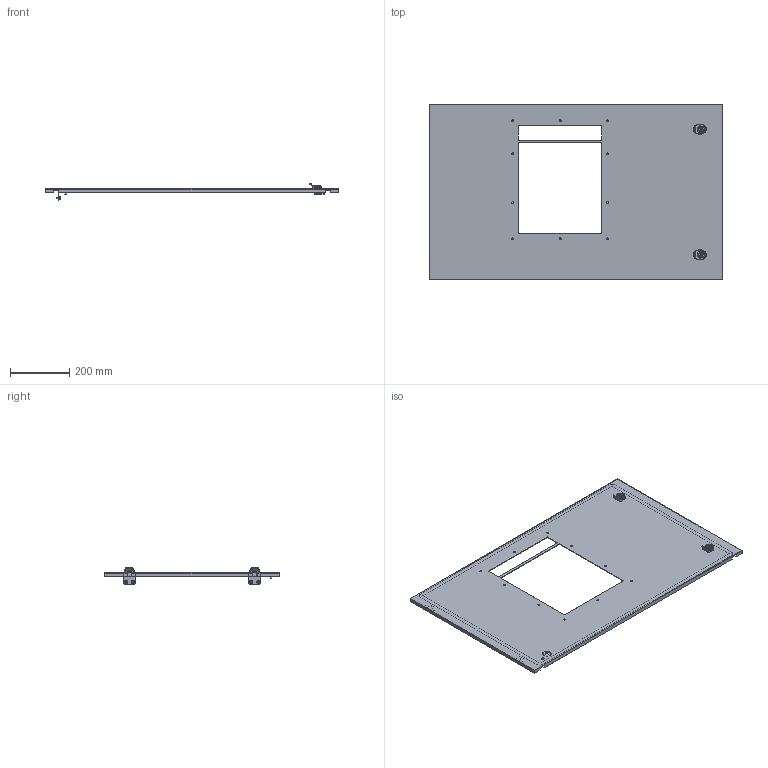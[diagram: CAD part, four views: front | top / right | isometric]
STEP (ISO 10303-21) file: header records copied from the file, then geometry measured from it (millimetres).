
FILE_DESCRIPTION (( 'STEP AP214' ), '1' );
FILE_NAME ('FO-00-ESDG-060-100 Äâåðü ñåêöèîííàÿ âíåøíÿÿ ñ âûðåçîì äëÿ ARMAT ACB òèïîðàçìåð G âûê. èñï. 3II4P 600õ1000 ìì.STEP', '2025-08-20T06:50:52', ( '' ), ( '' ), 'SwSTEP 2.0', 'SolidWorks 2023', '' );
FILE_SCHEMA (( 'AUTOMOTIVE_DESIGN' ));
Length unit declared in the file: millimetre
Products named in the file (4): FO-00-ESDG-060-100 Дверь секционная внешняя с вырезом для ARMAT ACB типоразмер G вык. исп. 3II4P 600х1000 мм; Дверь секционная внешняя с вырезом для ARMAT ACB типоразмер G вык. исп. 3II4P 600х1000.STEP; Петля_18.STEP; FO-00-ESDG-060-100 Дверь секционная внешняя с вырезом для ARMAT ACB типоразмер G вык. исп. 3II4P 600х1000 мм.STEP
Assembly tree (4 placements, depth 3):
  FO-00-ESDG-060-100 Дверь секционная внешняя с вырезом для ARMAT ACB типоразмер G вык. исп. 3II4P 600х1000 мм
    FO-00-ESDG-060-100 Дверь секционная внешняя с вырезом для ARMAT ACB типоразмер G вык. исп. 3II4P 600х1000 мм.STEP
      Дверь секционная внешняя с вырезом для ARMAT ACB типоразмер G вык. исп. 3II4P 600х1000.STEP
      Петля_18.STEP  x2
Bounding box: 995 x 596 x 57.25 mm (x, y, z)
Volume: 1208081.7 mm3; surface area: 1104039.1 mm2
Topology: 3 solids, 12 shells, 731 faces, 1887 edges, 1222 vertices
Faces by surface type: plane 351, cylinder 288, torus 34, bspline 30, cone 28
Entity records: 21630 total; most frequent: CARTESIAN_POINT 5938, ORIENTED_EDGE 3264, DIRECTION 3242, EDGE_CURVE 1632, AXIS2_PLACEMENT_3D 1118, VERTEX_POINT 1060, LINE 1006, VECTOR 1006
